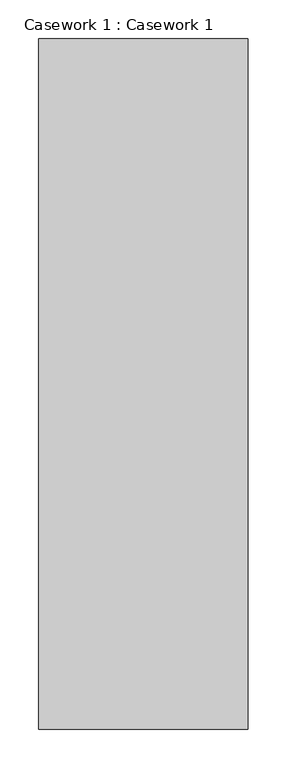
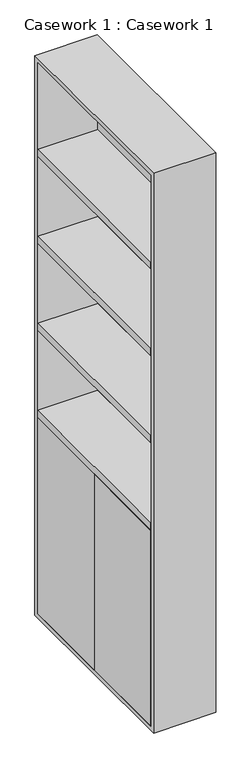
"""IFC4 building model written with IfcOpenShell, lengths in millimetres: furniture geometry, Casework 1 : Casework 1."""

from ifc_helpers import new_model, si_unit, frame, origin, place, context, project, spatial, polyline, outline, extrude, source, transform, mapped, element, save


def casework_1_casework_1_45500216(model_context):
    return source(origin(), model_context, "Body", "SweptSolid", [
        extrude(outline(polyline([(98023.4901558, 13326.5358144), (98023.4901558, 14181.0304058), (98033.4901558, 14181.0304058), (98033.4901558, 13326.5358144), (98023.4901558, 13326.5358144)])), frame((0.0, 0.0, 956.230913), z_axis=(0.0, 0.0, 1.0), x_axis=(1.0, 0.0, 0.0)), (0.0, 0.0, 1.0), 1600.0),
        extrude(outline(polyline([(97761.5820716, 13326.5358144), (97761.5820716, 14181.0304058), (98033.4901558, 14181.0304058), (98033.4901558, 13326.5358144), (97761.5820716, 13326.5358144)])), frame((0.0, 0.0, 2124.230913), z_axis=(0.0, 0.0, 1.0), x_axis=(1.0, 0.0, 0.0)), (0.0, 0.0, 1.0), 32.0),
        extrude(outline(polyline([(97761.5820716, 13326.5358144), (97761.5820716, 14181.0304058), (98033.4901558, 14181.0304058), (98033.4901558, 13326.5358144), (97761.5820716, 13326.5358144)])), frame((0.0, 0.0, 1724.230913), z_axis=(0.0, 0.0, 1.0), x_axis=(1.0, 0.0, 0.0)), (0.0, 0.0, 1.0), 32.0),
        extrude(outline(polyline([(97761.5820716, 13326.5358144), (97761.5820716, 14181.0304058), (98033.4901558, 14181.0304058), (98033.4901558, 13326.5358144), (97761.5820716, 13326.5358144)])), frame((0.0, 0.0, 1324.230913), z_axis=(0.0, 0.0, 1.0), x_axis=(1.0, 0.0, 0.0)), (0.0, 0.0, 1.0), 32.0),
        extrude(outline(polyline([(97761.5820716, 13326.5358144), (97761.5820716, 14181.0304058), (98033.4901558, 14181.0304058), (98033.4901558, 13326.5358144), (97761.5820716, 13326.5358144)])), frame((0.0, 0.0, 924.230913), z_axis=(0.0, 0.0, 1.0), x_axis=(1.0, 0.0, 0.0)), (0.0, 0.0, 1.0), 32.0),
        extrude(outline(polyline([(97761.5820716, 13754.7831101), (97761.5820716, 14181.0304058), (98033.4901558, 14181.0304058), (98033.4901558, 13754.7831101), (97761.5820716, 13754.7831101)])), frame((0.0, 0.0, 20.0), z_axis=(0.0, 0.0, 1.0), x_axis=(1.0, 0.0, 0.0)), (0.0, 0.0, 1.0), 900.230913),
        extrude(outline(polyline([(97761.5820716, 13326.5358144), (97761.5820716, 13752.7831101), (98033.4901558, 13752.7831101), (98033.4901558, 13326.5358144), (97761.5820716, 13326.5358144)])), frame((0.0, 0.0, 20.0), z_axis=(0.0, 0.0, 1.0), x_axis=(1.0, 0.0, 0.0)), (0.0, 0.0, 1.0), 900.230913),
        extrude(outline(polyline([(13306.5358144, 2576.230913), (14201.0304058, 2576.230913), (14201.0304058, 0.0), (13306.5358144, 0.0), (13306.5358144, 2576.230913)]), holes=[polyline([(14181.0304058, 20.0), (14181.0304058, 2556.230913), (13326.5358144, 2556.230913), (13326.5358144, 20.0), (14181.0304058, 20.0)])]), frame((97761.5820716, 0.0, 0.0), z_axis=(1.0, 0.0, 0.0), x_axis=(0.0, 1.0, 0.0)), (0.0, 0.0, 1.0), 271.9080842),
    ])


if __name__ == "__main__":
    model = new_model("IFC4")
    model_context = context("Model", 3, world=origin())
    ifc_project = project(units=[si_unit("LENGTHUNIT", "METRE", prefix="MILLI")], contexts=[model_context])
    site = spatial("IfcSite", under=ifc_project)
    building = spatial("IfcBuilding", under=site)
    placement = place(None, origin())
    casework_1_casework_1_shape = casework_1_casework_1_45500216(model_context)
    element("IfcFurniture", 1, ObjectType="Casework 1 : Casework 1", at=placement, inside=building, context=model_context, shape_type="MappedRepresentation", body=[
        mapped(casework_1_casework_1_shape, transform((0.0, 0.0, 0.0), x_axis=(1.0, 0.0, 0.0), y_axis=(0.0, 1.0, 0.0), z_axis=(0.0, 0.0, 1.0))),
    ])
    save(model, "model.ifc")
